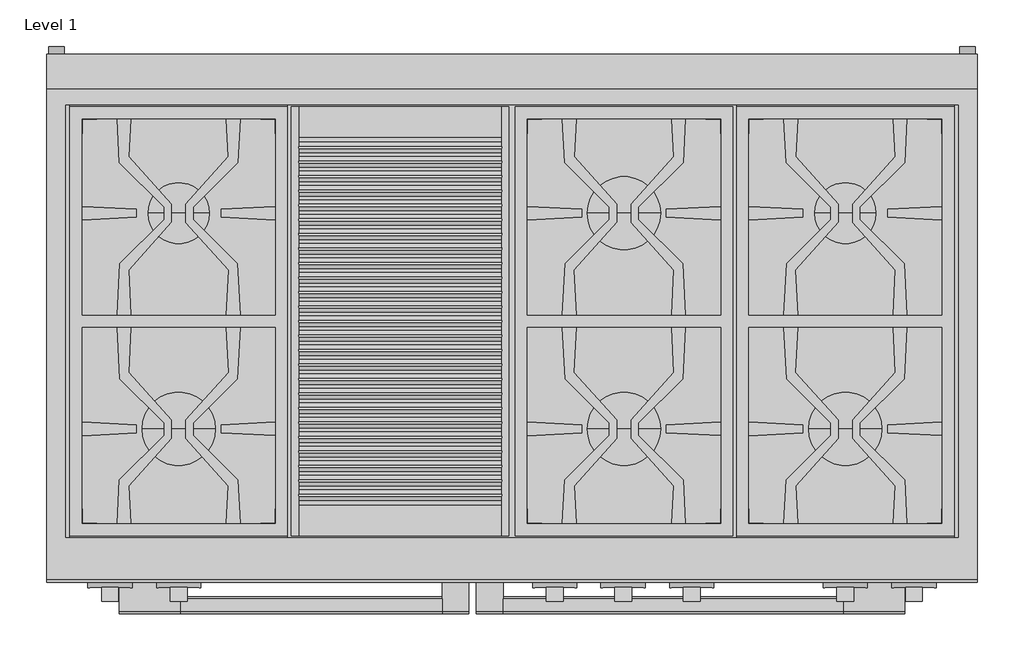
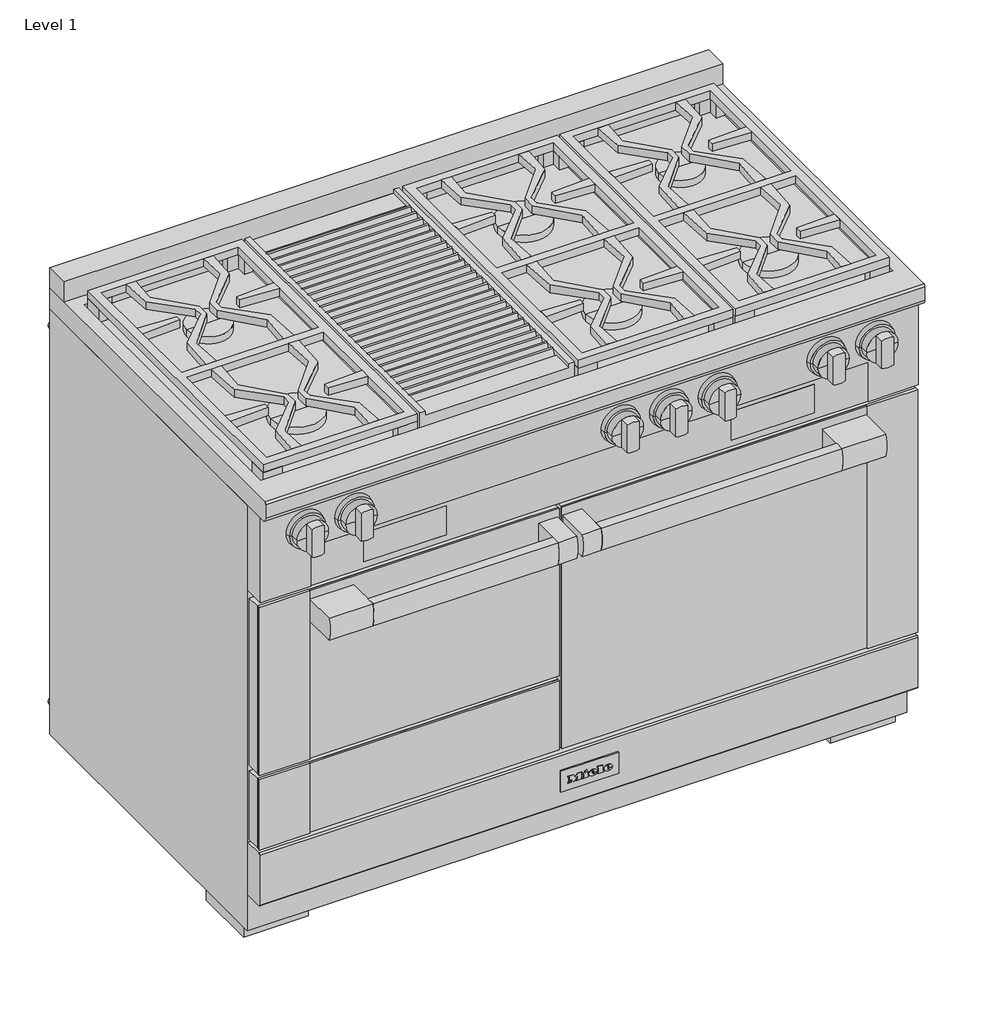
# One storey: 1 proxy.
"""IFC4 building model written with IfcOpenShell, lengths in millimetres."""

from ifc_helpers import new_model, si_unit, origin, place, context, project, spatial, transform, mapped, element, save
from components import specialty_equipment_023cb875, specialty_equipment_9f889e3c, specialty_equipment_3a3c5f90

model = new_model("IFC4")

# Units and contexts
model_context = context("Model", 3, world=origin())
ifc_project = project(units=[si_unit("LENGTHUNIT", "METRE", prefix="MILLI")], contexts=[model_context])

# Site, building, storey
site = spatial("IfcSite", under=ifc_project)
building = spatial("IfcBuilding", under=site)
storey = spatial("IfcBuildingStorey", under=building, Name="Level 1", Elevation=0.0)

# Proxy
placement = place(None, origin())
specialty_equipment_shape = specialty_equipment_023cb875(model_context)
specialty_equipment_2_shape = specialty_equipment_9f889e3c(model_context)
specialty_equipment_3_shape = specialty_equipment_3a3c5f90(model_context)
element("IfcBuildingElementProxy", 1, Name="11791690_USA_HR1955-3G_EDST-CLST : 25195581_USA_11791690_HR1955-3G_EDST-CLST", ObjectType="11791690_USA_HR1955-3G_EDST-CLST : 25195581_USA_11791690_HR1955-3G_EDST-CLST", at=placement, inside=storey, context=model_context, shape_type="MappedRepresentation", body=[
    mapped(specialty_equipment_shape, transform((0.0, 0.0, 0.0), x_axis=(1.0, 0.0, 0.0), y_axis=(0.0, 1.0, 0.0), z_axis=(0.0, 0.0, 1.0))),
    mapped(specialty_equipment_2_shape, transform((0.0, 0.0, 0.0), x_axis=(1.0, 0.0, 0.0), y_axis=(0.0, 1.0, 0.0), z_axis=(0.0, 0.0, 1.0))),
    mapped(specialty_equipment_3_shape, transform((0.0, 0.0, 0.0), x_axis=(1.0, 0.0, 0.0), y_axis=(0.0, 1.0, 0.0), z_axis=(0.0, 0.0, 1.0))),
])

save(model, "model.ifc")
